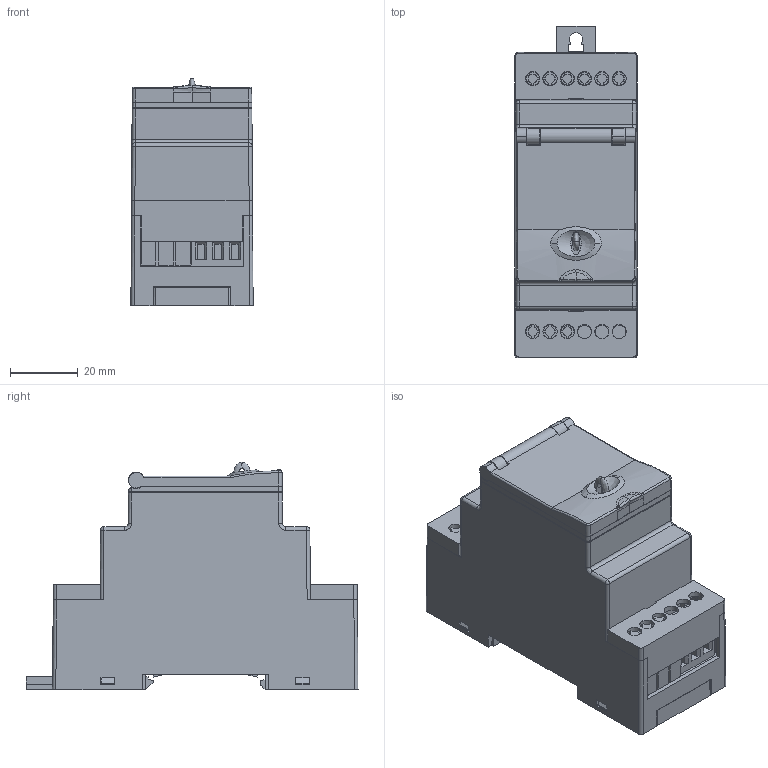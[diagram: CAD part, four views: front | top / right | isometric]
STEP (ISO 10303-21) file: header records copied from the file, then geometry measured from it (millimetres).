
FILE_DESCRIPTION (( 'STEP AP203' ), '1' );
FILE_NAME ('MCB Serisi.STEP', '2025-04-29T10:56:34', ( '' ), ( '' ), 'SwSTEP 2.0', 'SolidWorks 2023', '' );
FILE_SCHEMA (( 'CONFIG_CONTROL_DESIGN' ));
Products named in the file (1): MCB Serisi
Bounding box: 36 x 97.79 x 67.01 mm (x, y, z)
Volume: 91194.3 mm3; surface area: 85956.4 mm2
Topology: 44 solids, 44 shells, 4583 faces, 12441 edges, 8002 vertices
Faces by surface type: plane 3389, cylinder 756, sphere 157, cone 118, torus 109, bspline 54
Entity records: 144915 total; most frequent: CARTESIAN_POINT 29209, ORIENTED_EDGE 24782, DIRECTION 22792, EDGE_CURVE 12391, VECTOR 10280, LINE 10280, VERTEX_POINT 7996, AXIS2_PLACEMENT_3D 6256
